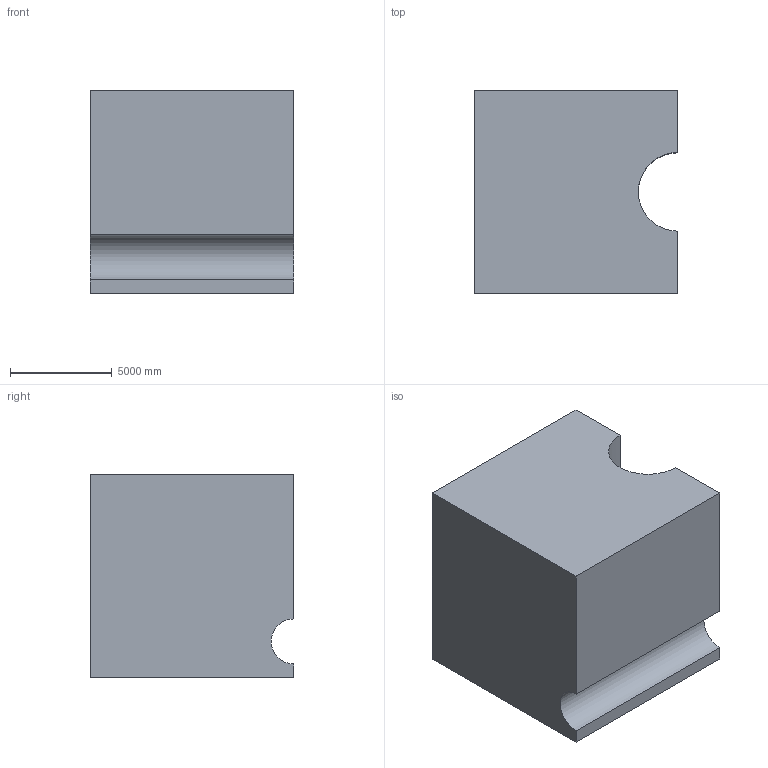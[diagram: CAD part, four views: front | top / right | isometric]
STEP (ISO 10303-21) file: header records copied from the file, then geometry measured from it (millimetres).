
FILE_DESCRIPTION (( 'STEP AP203' ), '1' );
FILE_NAME ('161.STEP', '2022-07-28T13:46:36', ( 'user' ), ( '' ), 'SwSTEP 2.0', 'SolidWorks 2021', '' );
FILE_SCHEMA (( 'CONFIG_CONTROL_DESIGN' ));
Length unit declared in the file: centimetre
Products named in the file (1): 161
Bounding box: 10000 x 10000 x 10000 mm (x, y, z)
Volume: 921924510198.7 mm3; surface area: 619109463.4 mm2
Topology: 1 solids, 1 shells, 11 faces, 27 edges, 18 vertices
Faces by surface type: plane 8, cylinder 3
Entity records: 404 total; most frequent: DIRECTION 57, CARTESIAN_POINT 57, ORIENTED_EDGE 54, EDGE_CURVE 27, LINE 21, VECTOR 21, AXIS2_PLACEMENT_3D 18, VERTEX_POINT 18
